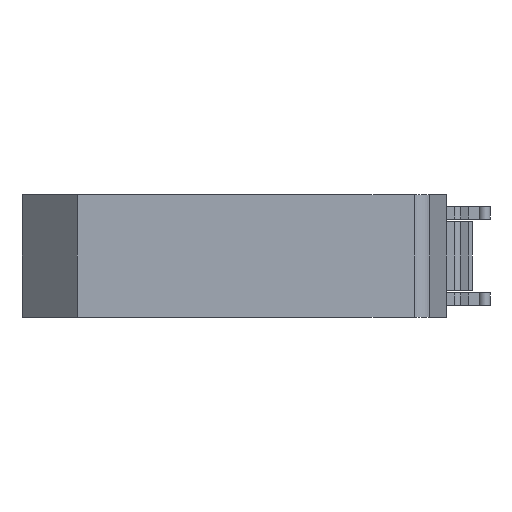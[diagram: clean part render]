
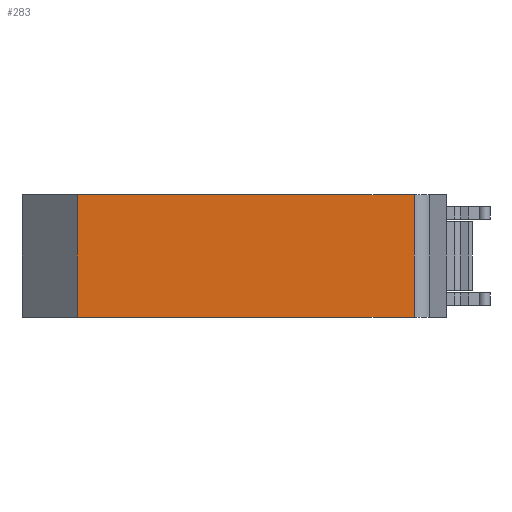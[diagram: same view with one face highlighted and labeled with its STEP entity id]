
A CAD part, left-side view. The second image highlights one B-rep face of the part: STEP entity #283.
In plain terms, the highlighted planar face has unit normal (-1, 0, 0).
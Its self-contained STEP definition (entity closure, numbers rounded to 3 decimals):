
#168=FACE_OUTER_BOUND('',#1106,.T.);
#283=ADVANCED_FACE('',(#168),#392,.T.);
#392=PLANE('',#2519);
#567=LINE('',#3490,#866);
#569=LINE('',#3494,#868);
#570=LINE('',#3496,#869);
#571=LINE('',#3498,#870);
#866=VECTOR('',#2839,1.);
#868=VECTOR('',#2843,1.);
#869=VECTOR('',#2844,1.);
#870=VECTOR('',#2845,1.);
#1106=EDGE_LOOP('',(#1344,#1345,#1346,#1347));
#1344=ORIENTED_EDGE('',*,*,#2212,.F.);
#1345=ORIENTED_EDGE('',*,*,#2214,.T.);
#1346=ORIENTED_EDGE('',*,*,#2215,.T.);
#1347=ORIENTED_EDGE('',*,*,#2216,.F.);
#1956=VERTEX_POINT('',#3489);
#1957=VERTEX_POINT('',#3491);
#1958=VERTEX_POINT('',#3495);
#1959=VERTEX_POINT('',#3497);
#2212=EDGE_CURVE('',#1956,#1957,#567,.T.);
#2214=EDGE_CURVE('',#1956,#1958,#569,.T.);
#2215=EDGE_CURVE('',#1958,#1959,#570,.T.);
#2216=EDGE_CURVE('',#1957,#1959,#571,.T.);
#2519=AXIS2_PLACEMENT_3D('',#3499,#2846,#2847);
#2839=DIRECTION('',(0.,0.,1.));
#2843=DIRECTION('',(0.,-1.,0.));
#2844=DIRECTION('',(0.,0.,1.));
#2845=DIRECTION('',(0.,-1.,0.));
#2846=DIRECTION('',(-1.,0.,0.));
#2847=DIRECTION('',(0.,0.,1.));
#3489=CARTESIAN_POINT('',(6217.704,1783.061,-20.2));
#3490=CARTESIAN_POINT('',(6217.704,1783.061,-50.));
#3491=CARTESIAN_POINT('',(6217.704,1783.061,0.));
#3494=CARTESIAN_POINT('',(6217.704,1783.061,-20.2));
#3495=CARTESIAN_POINT('',(6217.704,1727.536,-20.2));
#3496=CARTESIAN_POINT('',(6217.704,1727.536,-50.));
#3497=CARTESIAN_POINT('',(6217.704,1727.536,0.));
#3498=CARTESIAN_POINT('',(6217.704,1783.061,0.));
#3499=CARTESIAN_POINT('',(6217.704,1783.061,-50.));
